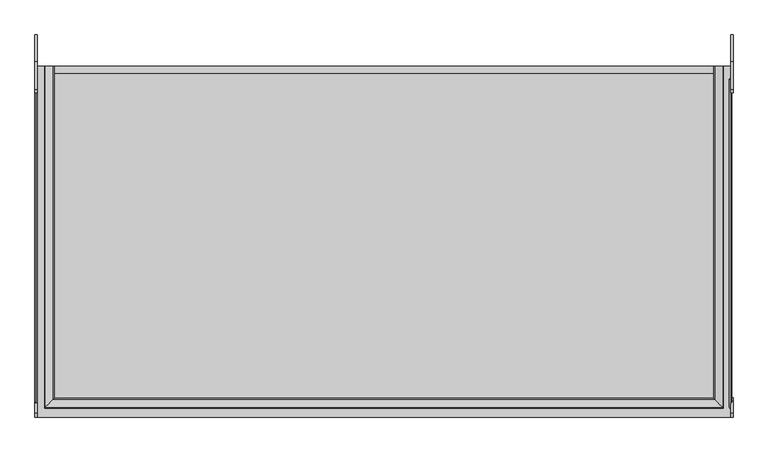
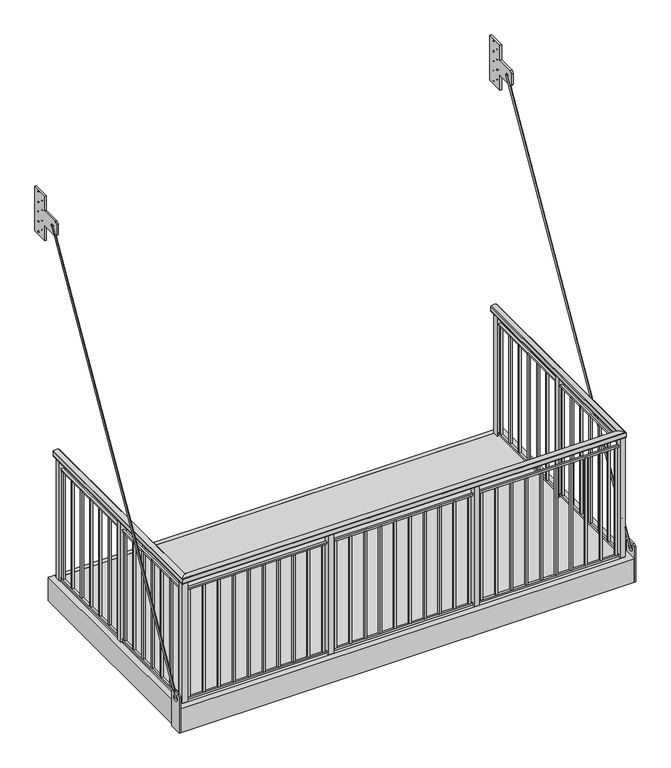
"""IFC4 building model written with IfcOpenShell, lengths in millimetres: proxy geometry, Specialty-Equipment_Endurable-Building-Products_Standard-Balcony : Vertical Pickets 6' x 12'."""

from ifc_helpers import new_model, si_unit, point, frame, frame_2d, origin, origin_2d, place, context, project, spatial, polyline, circle_curve, ellipse_curve, trimmed, segment, composite_curve, outline, extrude, source, transform, mapped, element, save
from ifc_brep_helpers import plane_surface, cylinder_surface, advanced_brep


def specialty_equipment_351d1645(model_context):
    return source(origin(), model_context, "Body", "SolidModel", [
        extrude(outline(polyline([(25.1129964, 3238.5), (164.8129964, 3238.5), (164.8129964, 2857.5), (25.1129964, 2857.5), (25.1129964, 2984.5), (-120.9370036, 2984.5), (-139.9870036, 3003.55), (-139.9870036, 3092.45), (-120.9370036, 3111.5), (25.1129964, 3111.5), (25.1129964, 3238.5)]), holes=[composite_curve([segment(trimmed(circle_curve(frame_2d((-69.85, 3048.0)), 6.35), [point((-63.5, 3048.0))], [point((-76.2, 3048.0))], True, "CARTESIAN"), True, "CONTINUOUS"), segment(trimmed(circle_curve(frame_2d((-69.85, 3048.0)), 6.35), [point((-76.2, 3048.0))], [point((-63.5, 3048.0))], True, "CARTESIAN"), True, "CONTINUOUS")], self_intersect=False), composite_curve([segment(trimmed(circle_curve(frame_2d((120.3629964, 3048.0)), 2.38125), [point((122.7442464, 3048.0))], [point((117.9817464, 3048.0))], True, "CARTESIAN"), True, "CONTINUOUS"), segment(trimmed(circle_curve(frame_2d((120.3629964, 3048.0)), 2.38125), [point((117.9817464, 3048.0))], [point((122.7442464, 3048.0))], True, "CARTESIAN"), True, "CONTINUOUS")], self_intersect=False), composite_curve([segment(trimmed(circle_curve(frame_2d((120.3629964, 3219.45)), 2.38125), [point((122.7442464, 3219.45))], [point((117.9817464, 3219.45))], True, "CARTESIAN"), True, "CONTINUOUS"), segment(trimmed(circle_curve(frame_2d((120.3629964, 3219.45)), 2.38125), [point((117.9817464, 3219.45))], [point((122.7442464, 3219.45))], True, "CARTESIAN"), True, "CONTINUOUS")], self_intersect=False), composite_curve([segment(trimmed(circle_curve(frame_2d((120.3629964, 2876.55)), 2.38125), [point((122.7442464, 2876.55))], [point((117.9817464, 2876.55))], True, "CARTESIAN"), True, "CONTINUOUS"), segment(trimmed(circle_curve(frame_2d((120.3629964, 2876.55)), 2.38125), [point((117.9817464, 2876.55))], [point((122.7442464, 2876.55))], True, "CARTESIAN"), True, "CONTINUOUS")], self_intersect=False), composite_curve([segment(trimmed(circle_curve(frame_2d((120.3629964, 2965.45)), 2.38125), [point((122.7442464, 2965.45))], [point((117.9817464, 2965.45))], True, "CARTESIAN"), True, "CONTINUOUS"), segment(trimmed(circle_curve(frame_2d((120.3629964, 2965.45)), 2.38125), [point((117.9817464, 2965.45))], [point((122.7442464, 2965.45))], True, "CARTESIAN"), True, "CONTINUOUS")], self_intersect=False), composite_curve([segment(trimmed(circle_curve(frame_2d((120.3629964, 3130.55)), 2.38125), [point((122.7442464, 3130.55))], [point((117.9817464, 3130.55))], True, "CARTESIAN"), True, "CONTINUOUS"), segment(trimmed(circle_curve(frame_2d((120.3629964, 3130.55)), 2.38125), [point((117.9817464, 3130.55))], [point((122.7442464, 3130.55))], True, "CARTESIAN"), True, "CONTINUOUS")], self_intersect=False), composite_curve([segment(trimmed(circle_curve(frame_2d((69.5629964, 3092.45)), 2.38125), [point((71.9442464, 3092.45))], [point((67.1817464, 3092.45))], True, "CARTESIAN"), True, "CONTINUOUS"), segment(trimmed(circle_curve(frame_2d((69.5629964, 3092.45)), 2.38125), [point((67.1817464, 3092.45))], [point((71.9442464, 3092.45))], True, "CARTESIAN"), True, "CONTINUOUS")], self_intersect=False), composite_curve([segment(trimmed(circle_curve(frame_2d((69.5629964, 3175.0)), 2.38125), [point((71.9442464, 3175.0))], [point((67.1817464, 3175.0))], True, "CARTESIAN"), True, "CONTINUOUS"), segment(trimmed(circle_curve(frame_2d((69.5629964, 3175.0)), 2.38125), [point((67.1817464, 3175.0))], [point((71.9442464, 3175.0))], True, "CARTESIAN"), True, "CONTINUOUS")], self_intersect=False), composite_curve([segment(trimmed(circle_curve(frame_2d((69.5629964, 3003.55)), 2.38125), [point((71.9442464, 3003.55))], [point((67.1817464, 3003.55))], True, "CARTESIAN"), True, "CONTINUOUS"), segment(trimmed(circle_curve(frame_2d((69.5629964, 3003.55)), 2.38125), [point((67.1817464, 3003.55))], [point((71.9442464, 3003.55))], True, "CARTESIAN"), True, "CONTINUOUS")], self_intersect=False), composite_curve([segment(trimmed(circle_curve(frame_2d((69.5629964, 2921.0)), 2.38125), [point((71.9442464, 2921.0))], [point((67.1817464, 2921.0))], True, "CARTESIAN"), True, "CONTINUOUS"), segment(trimmed(circle_curve(frame_2d((69.5629964, 2921.0)), 2.38125), [point((67.1817464, 2921.0))], [point((71.9442464, 2921.0))], True, "CARTESIAN"), True, "CONTINUOUS")], self_intersect=False)]), frame((-1841.5, 0.0, 0.0), z_axis=(1.0, 0.0, 0.0), x_axis=(0.0, 1.0, 0.0)), (0.0, 0.0, 1.0), 12.7),
        extrude(outline(polyline([(25.1129964, 3238.5), (164.8129964, 3238.5), (164.8129964, 2857.5), (25.1129964, 2857.5), (25.1129964, 2984.5), (-120.9370036, 2984.5), (-139.9870036, 3003.55), (-139.9870036, 3092.45), (-120.9370036, 3111.5), (25.1129964, 3111.5), (25.1129964, 3238.5)]), holes=[composite_curve([segment(trimmed(circle_curve(frame_2d((-69.85, 3048.0)), 6.35), [point((-63.5, 3048.0))], [point((-76.2, 3048.0))], True, "CARTESIAN"), True, "CONTINUOUS"), segment(trimmed(circle_curve(frame_2d((-69.85, 3048.0)), 6.35), [point((-76.2, 3048.0))], [point((-63.5, 3048.0))], True, "CARTESIAN"), True, "CONTINUOUS")], self_intersect=False), composite_curve([segment(trimmed(circle_curve(frame_2d((120.3629964, 3048.0)), 2.38125), [point((122.7442464, 3048.0))], [point((117.9817464, 3048.0))], True, "CARTESIAN"), True, "CONTINUOUS"), segment(trimmed(circle_curve(frame_2d((120.3629964, 3048.0)), 2.38125), [point((117.9817464, 3048.0))], [point((122.7442464, 3048.0))], True, "CARTESIAN"), True, "CONTINUOUS")], self_intersect=False), composite_curve([segment(trimmed(circle_curve(frame_2d((120.3629964, 3219.45)), 2.38125), [point((122.7442464, 3219.45))], [point((117.9817464, 3219.45))], True, "CARTESIAN"), True, "CONTINUOUS"), segment(trimmed(circle_curve(frame_2d((120.3629964, 3219.45)), 2.38125), [point((117.9817464, 3219.45))], [point((122.7442464, 3219.45))], True, "CARTESIAN"), True, "CONTINUOUS")], self_intersect=False), composite_curve([segment(trimmed(circle_curve(frame_2d((120.3629964, 2876.55)), 2.38125), [point((122.7442464, 2876.55))], [point((117.9817464, 2876.55))], True, "CARTESIAN"), True, "CONTINUOUS"), segment(trimmed(circle_curve(frame_2d((120.3629964, 2876.55)), 2.38125), [point((117.9817464, 2876.55))], [point((122.7442464, 2876.55))], True, "CARTESIAN"), True, "CONTINUOUS")], self_intersect=False), composite_curve([segment(trimmed(circle_curve(frame_2d((120.3629964, 2965.45)), 2.38125), [point((122.7442464, 2965.45))], [point((117.9817464, 2965.45))], True, "CARTESIAN"), True, "CONTINUOUS"), segment(trimmed(circle_curve(frame_2d((120.3629964, 2965.45)), 2.38125), [point((117.9817464, 2965.45))], [point((122.7442464, 2965.45))], True, "CARTESIAN"), True, "CONTINUOUS")], self_intersect=False), composite_curve([segment(trimmed(circle_curve(frame_2d((120.3629964, 3130.55)), 2.38125), [point((122.7442464, 3130.55))], [point((117.9817464, 3130.55))], True, "CARTESIAN"), True, "CONTINUOUS"), segment(trimmed(circle_curve(frame_2d((120.3629964, 3130.55)), 2.38125), [point((117.9817464, 3130.55))], [point((122.7442464, 3130.55))], True, "CARTESIAN"), True, "CONTINUOUS")], self_intersect=False), composite_curve([segment(trimmed(circle_curve(frame_2d((69.5629964, 3092.45)), 2.38125), [point((71.9442464, 3092.45))], [point((67.1817464, 3092.45))], True, "CARTESIAN"), True, "CONTINUOUS"), segment(trimmed(circle_curve(frame_2d((69.5629964, 3092.45)), 2.38125), [point((67.1817464, 3092.45))], [point((71.9442464, 3092.45))], True, "CARTESIAN"), True, "CONTINUOUS")], self_intersect=False), composite_curve([segment(trimmed(circle_curve(frame_2d((69.5629964, 3175.0)), 2.38125), [point((71.9442464, 3175.0))], [point((67.1817464, 3175.0))], True, "CARTESIAN"), True, "CONTINUOUS"), segment(trimmed(circle_curve(frame_2d((69.5629964, 3175.0)), 2.38125), [point((67.1817464, 3175.0))], [point((71.9442464, 3175.0))], True, "CARTESIAN"), True, "CONTINUOUS")], self_intersect=False), composite_curve([segment(trimmed(circle_curve(frame_2d((69.5629964, 3003.55)), 2.38125), [point((71.9442464, 3003.55))], [point((67.1817464, 3003.55))], True, "CARTESIAN"), True, "CONTINUOUS"), segment(trimmed(circle_curve(frame_2d((69.5629964, 3003.55)), 2.38125), [point((67.1817464, 3003.55))], [point((71.9442464, 3003.55))], True, "CARTESIAN"), True, "CONTINUOUS")], self_intersect=False), composite_curve([segment(trimmed(circle_curve(frame_2d((69.5629964, 2921.0)), 2.38125), [point((71.9442464, 2921.0))], [point((67.1817464, 2921.0))], True, "CARTESIAN"), True, "CONTINUOUS"), segment(trimmed(circle_curve(frame_2d((69.5629964, 2921.0)), 2.38125), [point((67.1817464, 2921.0))], [point((71.9442464, 2921.0))], True, "CARTESIAN"), True, "CONTINUOUS")], self_intersect=False)]), frame((1828.8, 0.0, 0.0), z_axis=(1.0, 0.0, 0.0), x_axis=(0.0, 1.0, 0.0)), (0.0, 0.0, 1.0), 12.7),
        extrude(outline(polyline([(-1850.23125, -203.2), (-1850.23125, 96.7382813), (-1831.18125, 115.7882813), (-1767.68125, 115.7882813), (-1748.63125, 96.7382813), (-1748.63125, -203.2), (-1850.23125, -203.2)]), holes=[composite_curve([segment(trimmed(circle_curve(frame_2d((-1799.43125, 64.9882813)), 25.4), [point((-1824.83125, 64.9882813))], [point((-1774.03125, 64.9882813))], True, "CARTESIAN"), True, "CONTINUOUS"), segment(trimmed(circle_curve(frame_2d((-1799.43125, 64.9882813)), 25.4), [point((-1774.03125, 64.9882813))], [point((-1824.83125, 64.9882813))], True, "CARTESIAN"), True, "CONTINUOUS")], self_intersect=False)]), frame((-1841.5, 0.0, 0.0), z_axis=(1.0, 0.0, 0.0), x_axis=(0.0, 1.0, 0.0)), (0.0, 0.0, 1.0), 12.7),
        extrude(outline(polyline([(-1850.23125, -203.2), (-1850.23125, 96.7382812), (-1831.18125, 115.7882812), (-1767.68125, 115.7882812), (-1748.63125, 96.7382812), (-1748.63125, -203.2), (-1850.23125, -203.2)]), holes=[composite_curve([segment(trimmed(circle_curve(frame_2d((-1799.43125, 64.9882812)), 25.4), [point((-1824.83125, 64.9882812))], [point((-1774.03125, 64.9882812))], True, "CARTESIAN"), True, "CONTINUOUS"), segment(trimmed(circle_curve(frame_2d((-1799.43125, 64.9882812)), 25.4), [point((-1774.03125, 64.9882812))], [point((-1824.83125, 64.9882812))], True, "CARTESIAN"), True, "CONTINUOUS")], self_intersect=False)]), frame((1828.8, 0.0, 0.0), z_axis=(1.0, 0.0, 0.0), x_axis=(0.0, 1.0, 0.0)), (0.0, 0.0, 1.0), 12.7),
        extrude(outline(polyline([(1202.8714286, -38.1), (1202.8714286, -1799.43125), (1164.7714286, -1799.43125), (1164.7714286, -38.1), (1202.8714286, -38.1)])), frame((0.0, 0.0, -203.2), z_axis=(0.0, 0.0, 1.0), x_axis=(1.0, 0.0, 0.0)), (0.0, 0.0, 1.0), 177.8),
        extrude(outline(polyline([(729.3428571, -38.1), (729.3428571, -1799.43125), (691.2428571, -1799.43125), (691.2428571, -38.1), (729.3428571, -38.1)])), frame((0.0, 0.0, -203.2), z_axis=(0.0, 0.0, 1.0), x_axis=(1.0, 0.0, 0.0)), (0.0, 0.0, 1.0), 177.8),
        extrude(outline(polyline([(255.8142857, -38.1), (255.8142857, -1799.43125), (217.7142857, -1799.43125), (217.7142857, -38.1), (255.8142857, -38.1)])), frame((0.0, 0.0, -203.2), z_axis=(0.0, 0.0, 1.0), x_axis=(1.0, 0.0, 0.0)), (0.0, 0.0, 1.0), 177.8),
        extrude(outline(polyline([(427.9488426, -1770.0625), (427.9488426, -1785.9375), (412.0738426, -1785.9375), (412.0738426, -1770.0625), (427.9488426, -1770.0625)])), frame((0.0, 0.0, 25.4), z_axis=(0.0, 0.0, 1.0), x_axis=(1.0, 0.0, 0.0)), (0.0, 0.0, 1.0), 914.4),
        extrude(outline(polyline([(307.9456019, -1770.0625), (307.9456019, -1785.9375), (292.0706019, -1785.9375), (292.0706019, -1770.0625), (307.9456019, -1770.0625)])), frame((0.0, 0.0, 25.4), z_axis=(0.0, 0.0, 1.0), x_axis=(1.0, 0.0, 0.0)), (0.0, 0.0, 1.0), 914.4),
        extrude(outline(polyline([(187.9423611, -1770.0625), (187.9423611, -1785.9375), (172.0673611, -1785.9375), (172.0673611, -1770.0625), (187.9423611, -1770.0625)])), frame((0.0, 0.0, 25.4), z_axis=(0.0, 0.0, 1.0), x_axis=(1.0, 0.0, 0.0)), (0.0, 0.0, 1.0), 914.4),
        extrude(outline(polyline([(67.9391204, -1770.0625), (67.9391204, -1785.9375), (52.0641204, -1785.9375), (52.0641204, -1770.0625), (67.9391204, -1770.0625)])), frame((0.0, 0.0, 25.4), z_axis=(0.0, 0.0, 1.0), x_axis=(1.0, 0.0, 0.0)), (0.0, 0.0, 1.0), 914.4),
        extrude(outline(polyline([(-52.0641204, -1770.0625), (-52.0641204, -1785.9375), (-67.9391204, -1785.9375), (-67.9391204, -1770.0625), (-52.0641204, -1770.0625)])), frame((0.0, 0.0, 25.4), z_axis=(0.0, 0.0, 1.0), x_axis=(1.0, 0.0, 0.0)), (0.0, 0.0, 1.0), 914.4),
        extrude(outline(polyline([(-172.0673611, -1770.0625), (-172.0673611, -1785.9375), (-187.9423611, -1785.9375), (-187.9423611, -1770.0625), (-172.0673611, -1770.0625)])), frame((0.0, 0.0, 25.4), z_axis=(0.0, 0.0, 1.0), x_axis=(1.0, 0.0, 0.0)), (0.0, 0.0, 1.0), 914.4),
        extrude(outline(polyline([(-292.0706019, -1770.0625), (-292.0706019, -1785.9375), (-307.9456019, -1785.9375), (-307.9456019, -1770.0625), (-292.0706019, -1770.0625)])), frame((0.0, 0.0, 25.4), z_axis=(0.0, 0.0, 1.0), x_axis=(1.0, 0.0, 0.0)), (0.0, 0.0, 1.0), 914.4),
        extrude(outline(polyline([(-412.0738426, -1770.0625), (-412.0738426, -1785.9375), (-427.9488426, -1785.9375), (-427.9488426, -1770.0625), (-412.0738426, -1770.0625)])), frame((0.0, 0.0, 25.4), z_axis=(0.0, 0.0, 1.0), x_axis=(1.0, 0.0, 0.0)), (0.0, 0.0, 1.0), 914.4),
        extrude(outline(polyline([(-1757.3625, -1083.1380208), (-1757.3625, -1099.0130208), (-1773.2375, -1099.0130208), (-1773.2375, -1083.1380208), (-1757.3625, -1083.1380208)])), frame((0.0, 0.0, 25.4), z_axis=(0.0, 0.0, 1.0), x_axis=(1.0, 0.0, 0.0)), (0.0, 0.0, 1.0), 914.4),
        extrude(outline(polyline([(-1757.3625, -1211.7916667), (-1757.3625, -1227.6666667), (-1773.2375, -1227.6666667), (-1773.2375, -1211.7916667), (-1757.3625, -1211.7916667)])), frame((0.0, 0.0, 25.4), z_axis=(0.0, 0.0, 1.0), x_axis=(1.0, 0.0, 0.0)), (0.0, 0.0, 1.0), 914.4),
        extrude(outline(polyline([(-1757.3625, -1340.4453125), (-1757.3625, -1356.3203125), (-1773.2375, -1356.3203125), (-1773.2375, -1340.4453125), (-1757.3625, -1340.4453125)])), frame((0.0, 0.0, 25.4), z_axis=(0.0, 0.0, 1.0), x_axis=(1.0, 0.0, 0.0)), (0.0, 0.0, 1.0), 914.4),
        extrude(outline(polyline([(-1757.3625, -1469.0989583), (-1757.3625, -1484.9739583), (-1773.2375, -1484.9739583), (-1773.2375, -1469.0989583), (-1757.3625, -1469.0989583)])), frame((0.0, 0.0, 25.4), z_axis=(0.0, 0.0, 1.0), x_axis=(1.0, 0.0, 0.0)), (0.0, 0.0, 1.0), 914.4),
        extrude(outline(polyline([(-1757.3625, -1597.7526042), (-1757.3625, -1613.6276042), (-1773.2375, -1613.6276042), (-1773.2375, -1597.7526042), (-1757.3625, -1597.7526042)])), frame((0.0, 0.0, 25.4), z_axis=(0.0, 0.0, 1.0), x_axis=(1.0, 0.0, 0.0)), (0.0, 0.0, 1.0), 914.4),
        extrude(outline(polyline([(1773.2375, -1083.1380208), (1773.2375, -1099.0130208), (1757.3625, -1099.0130208), (1757.3625, -1083.1380208), (1773.2375, -1083.1380208)])), frame((0.0, 0.0, 25.4), z_axis=(0.0, 0.0, 1.0), x_axis=(1.0, 0.0, 0.0)), (0.0, 0.0, 1.0), 914.4),
        extrude(outline(polyline([(1773.2375, -1211.7916667), (1773.2375, -1227.6666667), (1757.3625, -1227.6666667), (1757.3625, -1211.7916667), (1773.2375, -1211.7916667)])), frame((0.0, 0.0, 25.4), z_axis=(0.0, 0.0, 1.0), x_axis=(1.0, 0.0, 0.0)), (0.0, 0.0, 1.0), 914.4),
        extrude(outline(polyline([(1773.2375, -1340.4453125), (1773.2375, -1356.3203125), (1757.3625, -1356.3203125), (1757.3625, -1340.4453125), (1773.2375, -1340.4453125)])), frame((0.0, 0.0, 25.4), z_axis=(0.0, 0.0, 1.0), x_axis=(1.0, 0.0, 0.0)), (0.0, 0.0, 1.0), 914.4),
        extrude(outline(polyline([(1773.2375, -1469.0989583), (1773.2375, -1484.9739583), (1757.3625, -1484.9739583), (1757.3625, -1469.0989583), (1773.2375, -1469.0989583)])), frame((0.0, 0.0, 25.4), z_axis=(0.0, 0.0, 1.0), x_axis=(1.0, 0.0, 0.0)), (0.0, 0.0, 1.0), 914.4),
        extrude(outline(polyline([(1773.2375, -1597.7526042), (1773.2375, -1613.6276042), (1757.3625, -1613.6276042), (1757.3625, -1597.7526042), (1773.2375, -1597.7526042)])), frame((0.0, 0.0, 25.4), z_axis=(0.0, 0.0, 1.0), x_axis=(1.0, 0.0, 0.0)), (0.0, 0.0, 1.0), 914.4),
        extrude(outline(polyline([(1773.2375, -738.5182292), (1773.2375, -754.3932292), (1757.3625, -754.3932292), (1757.3625, -738.5182292), (1773.2375, -738.5182292)])), frame((0.0, 0.0, 25.4), z_axis=(0.0, 0.0, 1.0), x_axis=(1.0, 0.0, 0.0)), (0.0, 0.0, 1.0), 914.4),
        extrude(outline(polyline([(1773.2375, -609.8645833), (1773.2375, -625.7395833), (1757.3625, -625.7395833), (1757.3625, -609.8645833), (1773.2375, -609.8645833)])), frame((0.0, 0.0, 25.4), z_axis=(0.0, 0.0, 1.0), x_axis=(1.0, 0.0, 0.0)), (0.0, 0.0, 1.0), 914.4),
        extrude(outline(polyline([(1773.2375, -481.2109375), (1773.2375, -497.0859375), (1757.3625, -497.0859375), (1757.3625, -481.2109375), (1773.2375, -481.2109375)])), frame((0.0, 0.0, 25.4), z_axis=(0.0, 0.0, 1.0), x_axis=(1.0, 0.0, 0.0)), (0.0, 0.0, 1.0), 914.4),
        extrude(outline(polyline([(1773.2375, -352.5572917), (1773.2375, -368.4322917), (1757.3625, -368.4322917), (1757.3625, -352.5572917), (1773.2375, -352.5572917)])), frame((0.0, 0.0, 25.4), z_axis=(0.0, 0.0, 1.0), x_axis=(1.0, 0.0, 0.0)), (0.0, 0.0, 1.0), 914.4),
        extrude(outline(polyline([(1773.2375, -223.9036458), (1773.2375, -239.7786458), (1757.3625, -239.7786458), (1757.3625, -223.9036458), (1773.2375, -223.9036458)])), frame((0.0, 0.0, 25.4), z_axis=(0.0, 0.0, 1.0), x_axis=(1.0, 0.0, 0.0)), (0.0, 0.0, 1.0), 914.4),
        extrude(outline(polyline([(-1773.2375, -738.5182292), (-1757.3625, -738.5182292), (-1757.3625, -754.3932292), (-1773.2375, -754.3932292), (-1773.2375, -738.5182292)])), frame((0.0, 0.0, 25.4), z_axis=(0.0, 0.0, 1.0), x_axis=(1.0, 0.0, 0.0)), (0.0, 0.0, 1.0), 914.4),
        extrude(outline(polyline([(-1773.2375, -609.8645833), (-1757.3625, -609.8645833), (-1757.3625, -625.7395833), (-1773.2375, -625.7395833), (-1773.2375, -609.8645833)])), frame((0.0, 0.0, 25.4), z_axis=(0.0, 0.0, 1.0), x_axis=(1.0, 0.0, 0.0)), (0.0, 0.0, 1.0), 914.4),
        extrude(outline(polyline([(-1773.2375, -481.2109375), (-1757.3625, -481.2109375), (-1757.3625, -497.0859375), (-1773.2375, -497.0859375), (-1773.2375, -481.2109375)])), frame((0.0, 0.0, 25.4), z_axis=(0.0, 0.0, 1.0), x_axis=(1.0, 0.0, 0.0)), (0.0, 0.0, 1.0), 914.4),
        extrude(outline(polyline([(-1773.2375, -352.5572917), (-1757.3625, -352.5572917), (-1757.3625, -368.4322917), (-1773.2375, -368.4322917), (-1773.2375, -352.5572917)])), frame((0.0, 0.0, 25.4), z_axis=(0.0, 0.0, 1.0), x_axis=(1.0, 0.0, 0.0)), (0.0, 0.0, 1.0), 914.4),
        extrude(outline(polyline([(-1773.2375, -223.9036458), (-1757.3625, -223.9036458), (-1757.3625, -239.7786458), (-1773.2375, -239.7786458), (-1773.2375, -223.9036458)])), frame((0.0, 0.0, 25.4), z_axis=(0.0, 0.0, 1.0), x_axis=(1.0, 0.0, 0.0)), (0.0, 0.0, 1.0), 914.4),
        extrude(outline(polyline([(1609.0488426, -1770.0625), (1609.0488426, -1785.9375), (1593.1738426, -1785.9375), (1593.1738426, -1770.0625), (1609.0488426, -1770.0625)])), frame((0.0, 0.0, 25.4), z_axis=(0.0, 0.0, 1.0), x_axis=(1.0, 0.0, 0.0)), (0.0, 0.0, 1.0), 914.4),
        extrude(outline(polyline([(1488.5164352, -1770.0625), (1488.5164352, -1785.9375), (1472.6414352, -1785.9375), (1472.6414352, -1770.0625), (1488.5164352, -1770.0625)])), frame((0.0, 0.0, 25.4), z_axis=(0.0, 0.0, 1.0), x_axis=(1.0, 0.0, 0.0)), (0.0, 0.0, 1.0), 914.4),
        extrude(outline(polyline([(1367.9840278, -1770.0625), (1367.9840278, -1785.9375), (1352.1090278, -1785.9375), (1352.1090278, -1770.0625), (1367.9840278, -1770.0625)])), frame((0.0, 0.0, 25.4), z_axis=(0.0, 0.0, 1.0), x_axis=(1.0, 0.0, 0.0)), (0.0, 0.0, 1.0), 914.4),
        extrude(outline(polyline([(1247.4516204, -1770.0625), (1247.4516204, -1785.9375), (1231.5766204, -1785.9375), (1231.5766204, -1770.0625), (1247.4516204, -1770.0625)])), frame((0.0, 0.0, 25.4), z_axis=(0.0, 0.0, 1.0), x_axis=(1.0, 0.0, 0.0)), (0.0, 0.0, 1.0), 914.4),
        extrude(outline(polyline([(1126.919213, -1770.0625), (1126.919213, -1785.9375), (1111.044213, -1785.9375), (1111.044213, -1770.0625), (1126.919213, -1770.0625)])), frame((0.0, 0.0, 25.4), z_axis=(0.0, 0.0, 1.0), x_axis=(1.0, 0.0, 0.0)), (0.0, 0.0, 1.0), 914.4),
        extrude(outline(polyline([(1006.3868056, -1770.0625), (1006.3868056, -1785.9375), (990.5118056, -1785.9375), (990.5118056, -1770.0625), (1006.3868056, -1770.0625)])), frame((0.0, 0.0, 25.4), z_axis=(0.0, 0.0, 1.0), x_axis=(1.0, 0.0, 0.0)), (0.0, 0.0, 1.0), 914.4),
        extrude(outline(polyline([(885.8543981, -1770.0625), (885.8543981, -1785.9375), (869.9793981, -1785.9375), (869.9793981, -1770.0625), (885.8543981, -1770.0625)])), frame((0.0, 0.0, 25.4), z_axis=(0.0, 0.0, 1.0), x_axis=(1.0, 0.0, 0.0)), (0.0, 0.0, 1.0), 914.4),
        extrude(outline(polyline([(765.3219907, -1770.0625), (765.3219907, -1785.9375), (749.4469907, -1785.9375), (749.4469907, -1770.0625), (765.3219907, -1770.0625)])), frame((0.0, 0.0, 25.4), z_axis=(0.0, 0.0, 1.0), x_axis=(1.0, 0.0, 0.0)), (0.0, 0.0, 1.0), 914.4),
        extrude(outline(polyline([(-749.4469907, -1770.0625), (-749.4469907, -1785.9375), (-765.3219907, -1785.9375), (-765.3219907, -1770.0625), (-749.4469907, -1770.0625)])), frame((0.0, 0.0, 25.4), z_axis=(0.0, 0.0, 1.0), x_axis=(1.0, 0.0, 0.0)), (0.0, 0.0, 1.0), 914.4),
        extrude(outline(polyline([(-869.9793981, -1770.0625), (-869.9793981, -1785.9375), (-885.8543981, -1785.9375), (-885.8543981, -1770.0625), (-869.9793981, -1770.0625)])), frame((0.0, 0.0, 25.4), z_axis=(0.0, 0.0, 1.0), x_axis=(1.0, 0.0, 0.0)), (0.0, 0.0, 1.0), 914.4),
        extrude(outline(polyline([(-990.5118056, -1770.0625), (-990.5118056, -1785.9375), (-1006.3868056, -1785.9375), (-1006.3868056, -1770.0625), (-990.5118056, -1770.0625)])), frame((0.0, 0.0, 25.4), z_axis=(0.0, 0.0, 1.0), x_axis=(1.0, 0.0, 0.0)), (0.0, 0.0, 1.0), 914.4),
        extrude(outline(polyline([(-1111.044213, -1770.0625), (-1111.044213, -1785.9375), (-1126.919213, -1785.9375), (-1126.919213, -1770.0625), (-1111.044213, -1770.0625)])), frame((0.0, 0.0, 25.4), z_axis=(0.0, 0.0, 1.0), x_axis=(1.0, 0.0, 0.0)), (0.0, 0.0, 1.0), 914.4),
        extrude(outline(polyline([(-1231.5766204, -1770.0625), (-1231.5766204, -1785.9375), (-1247.4516204, -1785.9375), (-1247.4516204, -1770.0625), (-1231.5766204, -1770.0625)])), frame((0.0, 0.0, 25.4), z_axis=(0.0, 0.0, 1.0), x_axis=(1.0, 0.0, 0.0)), (0.0, 0.0, 1.0), 914.4),
        extrude(outline(polyline([(-1352.1090278, -1770.0625), (-1352.1090278, -1785.9375), (-1367.9840278, -1785.9375), (-1367.9840278, -1770.0625), (-1352.1090278, -1770.0625)])), frame((0.0, 0.0, 25.4), z_axis=(0.0, 0.0, 1.0), x_axis=(1.0, 0.0, 0.0)), (0.0, 0.0, 1.0), 914.4),
        extrude(outline(polyline([(-1472.6414352, -1770.0625), (-1472.6414352, -1785.9375), (-1488.5164352, -1785.9375), (-1488.5164352, -1770.0625), (-1472.6414352, -1770.0625)])), frame((0.0, 0.0, 25.4), z_axis=(0.0, 0.0, 1.0), x_axis=(1.0, 0.0, 0.0)), (0.0, 0.0, 1.0), 914.4),
        extrude(outline(polyline([(-1593.1738426, -1770.0625), (-1593.1738426, -1785.9375), (-1609.0488426, -1785.9375), (-1609.0488426, -1770.0625), (-1593.1738426, -1770.0625)])), frame((0.0, 0.0, 25.4), z_axis=(0.0, 0.0, 1.0), x_axis=(1.0, 0.0, 0.0)), (0.0, 0.0, 1.0), 914.4),
        extrude(outline(polyline([(-217.7142857, -38.1), (-217.7142857, -1799.43125), (-255.8142857, -1799.43125), (-255.8142857, -38.1), (-217.7142857, -38.1)])), frame((0.0, 0.0, -203.2), z_axis=(0.0, 0.0, 1.0), x_axis=(1.0, 0.0, 0.0)), (0.0, 0.0, 1.0), 177.8),
        extrude(outline(polyline([(-691.2428571, -38.1), (-691.2428571, -1799.43125), (-729.3428571, -1799.43125), (-729.3428571, -38.1), (-691.2428571, -38.1)])), frame((0.0, 0.0, -203.2), z_axis=(0.0, 0.0, 1.0), x_axis=(1.0, 0.0, 0.0)), (0.0, 0.0, 1.0), 177.8),
        extrude(outline(polyline([(-1164.7714286, -38.1), (-1164.7714286, -1799.43125), (-1202.8714286, -1799.43125), (-1202.8714286, -38.1), (-1164.7714286, -38.1)])), frame((0.0, 0.0, -203.2), z_axis=(0.0, 0.0, 1.0), x_axis=(1.0, 0.0, 0.0)), (0.0, 0.0, 1.0), 177.8),
        extrude(outline(polyline([(1676.4, -38.1), (1676.4, -1799.43125), (1638.3, -1799.43125), (1638.3, -38.1), (1676.4, -38.1)])), frame((0.0, 0.0, -203.2), z_axis=(0.0, 0.0, 1.0), x_axis=(1.0, 0.0, 0.0)), (0.0, 0.0, 1.0), 177.8),
        extrude(outline(polyline([(1773.2375, -80.9625), (1773.2375, -897.334375), (1757.3625, -897.334375), (1757.3625, -80.9625), (1773.2375, -80.9625)])), frame((0.0, 0.0, 9.525), z_axis=(0.0, 0.0, 1.0), x_axis=(1.0, 0.0, 0.0)), (0.0, 0.0, 1.0), 15.875),
        extrude(outline(polyline([(1773.2375, -940.196875), (1773.2375, -1756.56875), (1757.3625, -1756.56875), (1757.3625, -940.196875), (1773.2375, -940.196875)])), frame((0.0, 0.0, 9.525), z_axis=(0.0, 0.0, 1.0), x_axis=(1.0, 0.0, 0.0)), (0.0, 0.0, 1.0), 15.875),
        extrude(outline(polyline([(-1773.2375, -80.9625), (-1757.3625, -80.9625), (-1757.3625, -897.334375), (-1773.2375, -897.334375), (-1773.2375, -80.9625)])), frame((0.0, 0.0, 9.525), z_axis=(0.0, 0.0, 1.0), x_axis=(1.0, 0.0, 0.0)), (0.0, 0.0, 1.0), 15.875),
        extrude(outline(polyline([(-1773.2375, -940.196875), (-1757.3625, -940.196875), (-1757.3625, -1756.56875), (-1773.2375, -1756.56875), (-1773.2375, -940.196875)])), frame((0.0, 0.0, 9.525), z_axis=(0.0, 0.0, 1.0), x_axis=(1.0, 0.0, 0.0)), (0.0, 0.0, 1.0), 15.875),
        extrude(outline(polyline([(547.9520833, -1770.0625), (547.9520833, -1785.9375), (532.0770833, -1785.9375), (532.0770833, -1770.0625), (547.9520833, -1770.0625)])), frame((0.0, 0.0, 25.4), z_axis=(0.0, 0.0, 1.0), x_axis=(1.0, 0.0, 0.0)), (0.0, 0.0, 1.0), 914.4),
        extrude(outline(polyline([(-1757.3625, -954.484375), (-1757.3625, -970.359375), (-1773.2375, -970.359375), (-1773.2375, -954.484375), (-1757.3625, -954.484375)])), frame((0.0, 0.0, 25.4), z_axis=(0.0, 0.0, 1.0), x_axis=(1.0, 0.0, 0.0)), (0.0, 0.0, 1.0), 914.4),
        extrude(outline(polyline([(1773.2375, -954.484375), (1773.2375, -970.359375), (1757.3625, -970.359375), (1757.3625, -954.484375), (1773.2375, -954.484375)])), frame((0.0, 0.0, 25.4), z_axis=(0.0, 0.0, 1.0), x_axis=(1.0, 0.0, 0.0)), (0.0, 0.0, 1.0), 914.4),
        extrude(outline(polyline([(1773.2375, -867.171875), (1773.2375, -883.046875), (1757.3625, -883.046875), (1757.3625, -867.171875), (1773.2375, -867.171875)])), frame((0.0, 0.0, 25.4), z_axis=(0.0, 0.0, 1.0), x_axis=(1.0, 0.0, 0.0)), (0.0, 0.0, 1.0), 914.4),
        extrude(outline(polyline([(-1773.2375, -867.171875), (-1757.3625, -867.171875), (-1757.3625, -883.046875), (-1773.2375, -883.046875), (-1773.2375, -867.171875)])), frame((0.0, 0.0, 25.4), z_axis=(0.0, 0.0, 1.0), x_axis=(1.0, 0.0, 0.0)), (0.0, 0.0, 1.0), 914.4),
        extrude(outline(polyline([(-532.0770833, -1770.0625), (-532.0770833, -1785.9375), (-547.9520833, -1785.9375), (-547.9520833, -1770.0625), (-532.0770833, -1770.0625)])), frame((0.0, 0.0, 25.4), z_axis=(0.0, 0.0, 1.0), x_axis=(1.0, 0.0, 0.0)), (0.0, 0.0, 1.0), 914.4),
        extrude(outline(polyline([(-567.0020833, -1770.0625), (567.0020833, -1770.0625), (567.0020833, -1785.9375), (-567.0020833, -1785.9375), (-567.0020833, -1770.0625)])), frame((0.0, 0.0, 9.525), z_axis=(0.0, 0.0, 1.0), x_axis=(1.0, 0.0, 0.0)), (0.0, 0.0, 1.0), 15.875),
        extrude(outline(polyline([(-567.0020833, -1770.0625), (567.0020833, -1770.0625), (567.0020833, -1785.9375), (-567.0020833, -1785.9375), (-567.0020833, -1770.0625)])), frame((0.0, 0.0, 939.8), z_axis=(0.0, 0.0, 1.0), x_axis=(1.0, 0.0, 0.0)), (0.0, 0.0, 1.0), 15.875),
        extrude(outline(polyline([(-1773.2375, -95.25), (-1757.3625, -95.25), (-1757.3625, -111.125), (-1773.2375, -111.125), (-1773.2375, -95.25)])), frame((0.0, 0.0, 25.4), z_axis=(0.0, 0.0, 1.0), x_axis=(1.0, 0.0, 0.0)), (0.0, 0.0, 1.0), 914.4),
        extrude(outline(polyline([(-1773.2375, -80.9625), (-1757.3625, -80.9625), (-1757.3625, -897.334375), (-1773.2375, -897.334375), (-1773.2375, -80.9625)])), frame((0.0, 0.0, 939.8), z_axis=(0.0, 0.0, 1.0), x_axis=(1.0, 0.0, 0.0)), (0.0, 0.0, 1.0), 15.875),
        extrude(outline(polyline([(1773.2375, -80.9625), (1773.2375, -897.334375), (1757.3625, -897.334375), (1757.3625, -80.9625), (1773.2375, -80.9625)])), frame((0.0, 0.0, 939.8), z_axis=(0.0, 0.0, 1.0), x_axis=(1.0, 0.0, 0.0)), (0.0, 0.0, 1.0), 15.875),
        extrude(outline(polyline([(1773.2375, -95.25), (1773.2375, -111.125), (1757.3625, -111.125), (1757.3625, -95.25), (1773.2375, -95.25)])), frame((0.0, 0.0, 25.4), z_axis=(0.0, 0.0, 1.0), x_axis=(1.0, 0.0, 0.0)), (0.0, 0.0, 1.0), 914.4),
        extrude(outline(polyline([(-567.0020833, -1756.56875), (-567.0020833, -1799.43125), (-609.8645833, -1799.43125), (-609.8645833, -1756.56875), (-567.0020833, -1756.56875)])), frame((0.0, 0.0, -203.2), z_axis=(0.0, 0.0, 1.0), x_axis=(1.0, 0.0, 0.0)), (0.0, 0.0, 1.0), 1219.2),
        extrude(outline(polyline([(609.8645833, -1756.56875), (609.8645833, -1799.43125), (567.0020833, -1799.43125), (567.0020833, -1756.56875), (609.8645833, -1756.56875)])), frame((0.0, 0.0, -203.2), z_axis=(0.0, 0.0, 1.0), x_axis=(1.0, 0.0, 0.0)), (0.0, 0.0, 1.0), 1219.2),
        extrude(outline(polyline([(1743.86875, -38.1), (1786.73125, -38.1), (1786.73125, -80.9625), (1743.86875, -80.9625), (1743.86875, -38.1)])), frame((0.0, 0.0, -203.2), z_axis=(0.0, 0.0, 1.0), x_axis=(1.0, 0.0, 0.0)), (0.0, 0.0, 1.0), 1219.2),
        extrude(outline(polyline([(-1743.86875, -38.1), (-1743.86875, -80.9625), (-1786.73125, -80.9625), (-1786.73125, -38.1), (-1743.86875, -38.1)])), frame((0.0, 0.0, -203.2), z_axis=(0.0, 0.0, 1.0), x_axis=(1.0, 0.0, 0.0)), (0.0, 0.0, 1.0), 1219.2),
        extrude(outline(polyline([(1773.2375, -940.196875), (1773.2375, -1756.56875), (1757.3625, -1756.56875), (1757.3625, -940.196875), (1773.2375, -940.196875)])), frame((0.0, 0.0, 939.8), z_axis=(0.0, 0.0, 1.0), x_axis=(1.0, 0.0, 0.0)), (0.0, 0.0, 1.0), 15.875),
        extrude(outline(polyline([(-1773.2375, -940.196875), (-1757.3625, -940.196875), (-1757.3625, -1756.56875), (-1773.2375, -1756.56875), (-1773.2375, -940.196875)])), frame((0.0, 0.0, 939.8), z_axis=(0.0, 0.0, 1.0), x_axis=(1.0, 0.0, 0.0)), (0.0, 0.0, 1.0), 15.875),
        extrude(outline(polyline([(1786.73125, -897.334375), (1786.73125, -940.196875), (1743.86875, -940.196875), (1743.86875, -897.334375), (1786.73125, -897.334375)])), frame((0.0, 0.0, -203.2), z_axis=(0.0, 0.0, 1.0), x_axis=(1.0, 0.0, 0.0)), (0.0, 0.0, 1.0), 1219.2),
        extrude(outline(polyline([(-1743.86875, -897.334375), (-1743.86875, -940.196875), (-1786.73125, -940.196875), (-1786.73125, -897.334375), (-1743.86875, -897.334375)])), frame((0.0, 0.0, -203.2), z_axis=(0.0, 0.0, 1.0), x_axis=(1.0, 0.0, 0.0)), (0.0, 0.0, 1.0), 1219.2),
        extrude(outline(polyline([(1778.0, 0.0), (1778.0, -38.1), (-1778.0, -38.1), (-1778.0, 0.0), (1778.0, 0.0)])), frame((0.0, 0.0, -203.2), z_axis=(0.0, 0.0, 1.0), x_axis=(1.0, 0.0, 0.0)), (0.0, 0.0, 1.0), 203.2),
        extrude(outline(polyline([(-1638.3, -38.1), (-1638.3, -1799.43125), (-1676.4, -1799.43125), (-1676.4, -38.1), (-1638.3, -38.1)])), frame((0.0, 0.0, -203.2), z_axis=(0.0, 0.0, 1.0), x_axis=(1.0, 0.0, 0.0)), (0.0, 0.0, 1.0), 177.8),
        extrude(outline(polyline([(1729.58125, -1770.0625), (1729.58125, -1785.9375), (1713.70625, -1785.9375), (1713.70625, -1770.0625), (1729.58125, -1770.0625)])), frame((0.0, 0.0, 25.4), z_axis=(0.0, 0.0, 1.0), x_axis=(1.0, 0.0, 0.0)), (0.0, 0.0, 1.0), 914.4),
        extrude(outline(polyline([(644.7895833, -1770.0625), (644.7895833, -1785.9375), (628.9145833, -1785.9375), (628.9145833, -1770.0625), (644.7895833, -1770.0625)])), frame((0.0, 0.0, 25.4), z_axis=(0.0, 0.0, 1.0), x_axis=(1.0, 0.0, 0.0)), (0.0, 0.0, 1.0), 914.4),
        extrude(outline(polyline([(-628.9145833, -1770.0625), (-628.9145833, -1785.9375), (-644.7895833, -1785.9375), (-644.7895833, -1770.0625), (-628.9145833, -1770.0625)])), frame((0.0, 0.0, 25.4), z_axis=(0.0, 0.0, 1.0), x_axis=(1.0, 0.0, 0.0)), (0.0, 0.0, 1.0), 914.4),
        extrude(outline(polyline([(-1713.70625, -1770.0625), (-1713.70625, -1785.9375), (-1729.58125, -1785.9375), (-1729.58125, -1770.0625), (-1713.70625, -1770.0625)])), frame((0.0, 0.0, 25.4), z_axis=(0.0, 0.0, 1.0), x_axis=(1.0, 0.0, 0.0)), (0.0, 0.0, 1.0), 914.4),
        extrude(outline(polyline([(-1773.2375, -940.196875), (-1757.3625, -940.196875), (-1757.3625, -1756.56875), (-1773.2375, -1756.56875), (-1773.2375, -940.196875)])), frame((0.0, 0.0, 939.8), z_axis=(0.0, 0.0, 1.0), x_axis=(1.0, 0.0, 0.0)), (0.0, 0.0, 1.0), 15.875),
        extrude(outline(polyline([(-1743.86875, -1756.56875), (-1743.86875, -1799.43125), (-1786.73125, -1799.43125), (-1786.73125, -1756.56875), (-1743.86875, -1756.56875)])), frame((0.0, 0.0, -203.2), z_axis=(0.0, 0.0, 1.0), x_axis=(1.0, 0.0, 0.0)), (0.0, 0.0, 1.0), 1219.2),
        extrude(outline(polyline([(1786.73125, -1756.56875), (1786.73125, -1799.43125), (1743.86875, -1799.43125), (1743.86875, -1756.56875), (1786.73125, -1756.56875)])), frame((0.0, 0.0, -203.2), z_axis=(0.0, 0.0, 1.0), x_axis=(1.0, 0.0, 0.0)), (0.0, 0.0, 1.0), 1219.2),
        extrude(outline(polyline([(609.8645833, -1770.0625), (1743.86875, -1770.0625), (1743.86875, -1785.9375), (609.8645833, -1785.9375), (609.8645833, -1770.0625)])), frame((0.0, 0.0, 9.525), z_axis=(0.0, 0.0, 1.0), x_axis=(1.0, 0.0, 0.0)), (0.0, 0.0, 1.0), 15.875),
        extrude(outline(polyline([(609.8645833, -1770.0625), (1743.86875, -1770.0625), (1743.86875, -1785.9375), (609.8645833, -1785.9375), (609.8645833, -1770.0625)])), frame((0.0, 0.0, 939.8), z_axis=(0.0, 0.0, 1.0), x_axis=(1.0, 0.0, 0.0)), (0.0, 0.0, 1.0), 15.875),
        extrude(outline(polyline([(1773.2375, -940.196875), (1773.2375, -1756.56875), (1757.3625, -1756.56875), (1757.3625, -940.196875), (1773.2375, -940.196875)])), frame((0.0, 0.0, 939.8), z_axis=(0.0, 0.0, 1.0), x_axis=(1.0, 0.0, 0.0)), (0.0, 0.0, 1.0), 15.875),
        extrude(outline(polyline([(-609.8645833, -1770.0625), (-609.8645833, -1785.9375), (-1743.86875, -1785.9375), (-1743.86875, -1770.0625), (-609.8645833, -1770.0625)])), frame((0.0, 0.0, 939.8), z_axis=(0.0, 0.0, 1.0), x_axis=(1.0, 0.0, 0.0)), (0.0, 0.0, 1.0), 15.875),
        extrude(outline(polyline([(-609.8645833, -1770.0625), (-609.8645833, -1785.9375), (-1743.86875, -1785.9375), (-1743.86875, -1770.0625), (-609.8645833, -1770.0625)])), frame((0.0, 0.0, 9.525), z_axis=(0.0, 0.0, 1.0), x_axis=(1.0, 0.0, 0.0)), (0.0, 0.0, 1.0), 15.875),
        extrude(outline(polyline([(1773.2375, -1726.40625), (1773.2375, -1742.28125), (1757.3625, -1742.28125), (1757.3625, -1726.40625), (1773.2375, -1726.40625)])), frame((0.0, 0.0, 25.4), z_axis=(0.0, 0.0, 1.0), x_axis=(1.0, 0.0, 0.0)), (0.0, 0.0, 1.0), 914.4),
        extrude(outline(polyline([(-1757.3625, -1726.40625), (-1757.3625, -1742.28125), (-1773.2375, -1742.28125), (-1773.2375, -1726.40625), (-1757.3625, -1726.40625)])), frame((0.0, 0.0, 25.4), z_axis=(0.0, 0.0, 1.0), x_axis=(1.0, 0.0, 0.0)), (0.0, 0.0, 1.0), 914.4),
        extrude(outline(polyline([(-1778.0, -1799.43125), (-1778.0, -38.1), (1778.0, -38.1), (1778.0, -1799.43125), (-1778.0, -1799.43125)])), frame((0.0, 0.0, -25.4), z_axis=(0.0, 0.0, 1.0), x_axis=(1.0, 0.0, 0.0)), (0.0, 0.0, 1.0), 25.4),
        extrude(outline(composite_curve([segment(trimmed(circle_curve(frame_2d((-6.35, 0.0)), 6.35), [point((-6.35, 6.35))], [point((-6.35, -6.35))], False, "CARTESIAN"), True, "CONTINUOUS"), segment(trimmed(circle_curve(frame_2d((-6.35, 0.0)), 6.35), [point((-6.35, -6.35))], [point((-6.35, 6.35))], False, "CARTESIAN"), True, "CONTINUOUS")], self_intersect=False)), frame((-1828.8, -1799.43125, 64.9882812), z_axis=(0.0, 0.501595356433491, 0.8651023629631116), x_axis=(1.0, 0.0, 0.0)), (0.0, 0.0, 1.0), 3448.1604102),
        extrude(outline(composite_curve([segment(trimmed(circle_curve(origin_2d(), 6.35), [point((0.0, 6.35))], [point((0.0, -6.35))], False, "CARTESIAN"), True, "CONTINUOUS"), segment(trimmed(circle_curve(origin_2d(), 6.35), [point((0.0, -6.35))], [point((0.0, 6.35))], False, "CARTESIAN"), True, "CONTINUOUS")], self_intersect=False)), frame((1828.8, -1799.43125, 64.9882812), z_axis=(0.0, 0.5015953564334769, 0.8651023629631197), x_axis=(-1.0, 0.0, 0.0)), (0.0, 0.0, 1.0), 3448.1604102),
        extrude(outline(polyline([(-1828.8, 0.0), (-1778.0, 0.0), (-1778.0, -1799.43125), (1778.0, -1799.43125), (1778.0, 0.0), (1828.8, 0.0), (1828.8, -1850.23125), (-1828.8, -1850.23125), (-1828.8, 0.0)])), frame((0.0, 0.0, -203.2), z_axis=(0.0, 0.0, 1.0), x_axis=(1.0, 0.0, 0.0)), (0.0, 0.0, 1.0), 203.2),
        advanced_brep(
        [(1790.7, 0.0, 1056.4003287), (1790.7, 0.0, 1022.35), (1784.35, 0.0, 1016.0), (1746.25, 0.0, 1016.0), (1739.9, 0.0, 1022.35), (1739.9, 0.0, 1056.4003287), (1743.6669492, 0.0, 1062.2012207), (1786.9330508, 0.0, 1062.2012207), (-1790.7, 0.0, 1056.4003287), (-1786.9330508, 0.0, 1062.2012207), (-1743.6669492, 0.0, 1062.2012207), (-1739.9, 0.0, 1056.4003287), (-1739.9, 0.0, 1022.35), (-1746.25, 0.0, 1016.0), (-1784.35, 0.0, 1016.0), (-1790.7, 0.0, 1022.35), (1790.7, -1803.4, 1056.4003287), (1790.7, -1803.4, 1022.35), (1784.35, -1797.05, 1016.0), (-1784.35, -1797.05, 1016.0), (-1746.25, -1758.95, 1016.0), (1746.25, -1758.95, 1016.0), (1739.9, -1752.6, 1022.35), (1739.9, -1752.6, 1056.4003287), (1743.6669492, -1756.3669492, 1062.2012207), (1786.9330508, -1799.6330508, 1062.2012207), (-1790.7, -1803.4, 1056.4003287), (-1790.7, -1803.4, 1022.35), (-1739.9, -1752.6, 1022.35), (-1739.9, -1752.6, 1056.4003287), (-1743.6669492, -1756.3669492, 1062.2012207), (-1786.9330508, -1799.6330508, 1062.2012207)],
        [
            (0, 1),
            (1, 2, circle_curve(frame((1784.35, 0.0, 1022.35), z_axis=(0.0, 1.0, 0.0), x_axis=(1.0, 0.0, 0.0)), 6.35)),
            (2, 3),
            (3, 4, circle_curve(frame((1746.25, 0.0, 1022.35), z_axis=(0.0, 1.0, 0.0), x_axis=(1.0, 0.0, 0.0)), 6.35)),
            (4, 5),
            (5, 6, circle_curve(frame((1746.25, 0.0, 1056.4003287), z_axis=(0.0, 1.0, 0.0), x_axis=(1.0, 0.0, 0.0)), 6.35)),
            (6, 7, circle_curve(frame((1765.3, 0.0, 1013.61875), z_axis=(0.0, 1.0, 0.0), x_axis=(1.0, 0.0, 0.0)), 53.18125)),
            (7, 0, circle_curve(frame((1784.35, 0.0, 1056.4003287), z_axis=(0.0, 1.0, 0.0), x_axis=(1.0, 0.0, 0.0)), 6.35)),
            (8, 9, circle_curve(frame((-1784.35, 0.0, 1056.4003287), z_axis=(0.0, 1.0, 0.0), x_axis=(-1.0, 0.0, 0.0)), 6.35)),
            (9, 10, circle_curve(frame((-1765.3, 0.0, 1013.61875), z_axis=(0.0, 1.0, 0.0), x_axis=(-1.0, 0.0, 0.0)), 53.18125)),
            (10, 11, circle_curve(frame((-1746.25, 0.0, 1056.4003287), z_axis=(0.0, 1.0, 0.0), x_axis=(-1.0, 0.0, 0.0)), 6.35)),
            (11, 12),
            (12, 13, circle_curve(frame((-1746.25, 0.0, 1022.35), z_axis=(0.0, 1.0, 0.0), x_axis=(-1.0, 0.0, 0.0)), 6.35)),
            (13, 14),
            (14, 15, circle_curve(frame((-1784.35, 0.0, 1022.35), z_axis=(0.0, 1.0, 0.0), x_axis=(-1.0, 0.0, 0.0)), 6.35)),
            (15, 8),
            (0, 16),
            (16, 17),
            (17, 1),
            (17, 18, ellipse_curve(frame((1784.35, -1797.05, 1022.35), z_axis=(0.7071067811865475, 0.7071067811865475, 0.0), x_axis=(-0.7071067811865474, 0.7071067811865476, 0.0)), 8.9802561, 6.35)),
            (18, 2),
            (18, 19),
            (19, 14),
            (13, 20),
            (20, 21),
            (21, 3),
            (21, 22, ellipse_curve(frame((1746.25, -1758.95, 1022.35), z_axis=(0.7071067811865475, 0.7071067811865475, 0.0), x_axis=(-0.7071067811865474, 0.7071067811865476, 0.0)), 8.9802561, 6.35)),
            (22, 4),
            (22, 23),
            (23, 5),
            (23, 24, ellipse_curve(frame((1746.25, -1758.95, 1056.4003287), z_axis=(0.7071067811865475, 0.7071067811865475, 0.0), x_axis=(-0.7071067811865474, 0.7071067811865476, 0.0)), 8.9802561, 6.35)),
            (24, 6),
            (24, 25, ellipse_curve(frame((1765.3, -1778.0, 1013.61875), z_axis=(0.7071067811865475, 0.7071067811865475, 0.0), x_axis=(-0.7071067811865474, 0.7071067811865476, 0.0)), 75.209645, 53.18125)),
            (25, 7),
            (25, 16, ellipse_curve(frame((1784.35, -1797.05, 1056.4003287), z_axis=(0.7071067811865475, 0.7071067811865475, 0.0), x_axis=(-0.7071067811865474, 0.7071067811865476, 0.0)), 8.9802561, 6.35)),
            (16, 26),
            (26, 27),
            (27, 17),
            (27, 19, ellipse_curve(frame((-1784.35, -1797.05, 1022.35), z_axis=(0.7071067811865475, -0.7071067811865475, 0.0), x_axis=(0.7071067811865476, 0.7071067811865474, 0.0)), 8.9802561, 6.35)),
            (20, 28, ellipse_curve(frame((-1746.25, -1758.95, 1022.35), z_axis=(0.7071067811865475, -0.7071067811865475, 0.0), x_axis=(0.7071067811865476, 0.7071067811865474, 0.0)), 8.9802561, 6.35)),
            (28, 22),
            (28, 29),
            (29, 23),
            (29, 30, ellipse_curve(frame((-1746.25, -1758.95, 1056.4003287), z_axis=(0.7071067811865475, -0.7071067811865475, 0.0), x_axis=(0.7071067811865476, 0.7071067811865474, 0.0)), 8.9802561, 6.35)),
            (30, 24),
            (30, 31, ellipse_curve(frame((-1765.3, -1778.0, 1013.61875), z_axis=(0.7071067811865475, -0.7071067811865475, 0.0), x_axis=(0.7071067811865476, 0.7071067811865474, 0.0)), 75.209645, 53.18125)),
            (31, 25),
            (31, 26, ellipse_curve(frame((-1784.35, -1797.05, 1056.4003287), z_axis=(0.7071067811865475, -0.7071067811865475, 0.0), x_axis=(0.7071067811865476, 0.7071067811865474, 0.0)), 8.9802561, 6.35)),
            (26, 8),
            (15, 27),
            (12, 28),
            (11, 29),
            (10, 30),
            (9, 31),
        ],
        [
            plane_surface(frame((1765.3, 0.0, 0.0), z_axis=(0.0, 1.0, 0.0), x_axis=(0.0, 0.0, 1.0))),
            plane_surface(frame((-1765.3, 0.0, 0.0), z_axis=(0.0, 1.0, 0.0), x_axis=(0.0, 0.0, 1.0))),
            plane_surface(frame((1790.7, 0.0, 1056.4003287), z_axis=(1.0, 0.0, 0.0), x_axis=(0.0, -1.0, 0.0))),
            cylinder_surface(frame((1784.35, 0.0, 1022.35), z_axis=(0.0, 1.0, 0.0), x_axis=(1.0, 0.0, 0.0)), 6.35),
            plane_surface(frame((1784.35, 0.0, 1016.0), z_axis=(0.0, 0.0, -1.0), x_axis=(0.0, -1.0, 0.0))),
            cylinder_surface(frame((1746.25, 0.0, 1022.35), z_axis=(0.0, 1.0, 0.0), x_axis=(1.0, 0.0, 0.0)), 6.35),
            plane_surface(frame((1739.9, 0.0, 1022.35), z_axis=(-1.0, 0.0, 0.0), x_axis=(0.0, -1.0, 0.0))),
            cylinder_surface(frame((1746.25, 0.0, 1056.4003287), z_axis=(0.0, 1.0, 0.0), x_axis=(1.0, 0.0, 0.0)), 6.35),
            cylinder_surface(frame((1765.3, 0.0, 1013.61875), z_axis=(0.0, 1.0, 0.0), x_axis=(1.0, 0.0, 0.0)), 53.18125),
            cylinder_surface(frame((1784.35, 0.0, 1056.4003287), z_axis=(0.0, 1.0, 0.0), x_axis=(1.0, 0.0, 0.0)), 6.35),
            plane_surface(frame((1790.7, -1803.4, 1056.4003287), z_axis=(0.0, -1.0, 0.0), x_axis=(-1.0, 0.0, 0.0))),
            cylinder_surface(frame((1765.3, -1797.05, 1022.35), z_axis=(1.0, 0.0, 0.0), x_axis=(0.0, -1.0, 0.0)), 6.35),
            cylinder_surface(frame((1765.3, -1758.95, 1022.35), z_axis=(1.0, 0.0, 0.0), x_axis=(0.0, -1.0, 0.0)), 6.35),
            plane_surface(frame((1739.9, -1752.6, 1022.35), z_axis=(0.0, 1.0, 0.0), x_axis=(-1.0, 0.0, 0.0))),
            cylinder_surface(frame((1765.3, -1758.95, 1056.4003287), z_axis=(1.0, 0.0, 0.0), x_axis=(0.0, -1.0, 0.0)), 6.35),
            cylinder_surface(frame((1765.3, -1778.0, 1013.61875), z_axis=(1.0, 0.0, 0.0), x_axis=(0.0, -1.0, 0.0)), 53.18125),
            cylinder_surface(frame((1765.3, -1797.05, 1056.4003287), z_axis=(1.0, 0.0, 0.0), x_axis=(0.0, -1.0, 0.0)), 6.35),
            plane_surface(frame((-1790.7, -1803.4, 1056.4003287), z_axis=(-1.0, 0.0, 0.0), x_axis=(0.0, 1.0, 0.0))),
            cylinder_surface(frame((-1784.35, -1778.0, 1022.35), z_axis=(0.0, -1.0, 0.0), x_axis=(-1.0, 0.0, 0.0)), 6.35),
            cylinder_surface(frame((-1746.25, -1778.0, 1022.35), z_axis=(0.0, -1.0, 0.0), x_axis=(-1.0, 0.0, 0.0)), 6.35),
            plane_surface(frame((-1739.9, -1752.6, 1022.35), z_axis=(1.0, 0.0, 0.0), x_axis=(0.0, 1.0, 0.0))),
            cylinder_surface(frame((-1746.25, -1778.0, 1056.4003287), z_axis=(0.0, -1.0, 0.0), x_axis=(-1.0, 0.0, 0.0)), 6.35),
            cylinder_surface(frame((-1765.3, -1778.0, 1013.61875), z_axis=(0.0, -1.0, 0.0), x_axis=(-1.0, 0.0, 0.0)), 53.18125),
            cylinder_surface(frame((-1784.35, -1778.0, 1056.4003287), z_axis=(0.0, -1.0, 0.0), x_axis=(-1.0, 0.0, 0.0)), 6.35),
        ],
        [
            (0, [[1, 2, 3, 4, 5, 6, 7, 8]]),
            (1, [[9, 10, 11, 12, 13, 14, 15, 16]]),
            (2, [[-1, 17, 18, 19]]),
            (3, [[-2, -19, 20, 21]]),
            (4, [[-3, -21, 22, 23, -14, 24, 25, 26]]),
            (5, [[-4, -26, 27, 28]]),
            (6, [[-5, -28, 29, 30]]),
            (7, [[-6, -30, 31, 32]]),
            (8, [[-7, -32, 33, 34]]),
            (9, [[-8, -34, 35, -17]]),
            (10, [[-18, 36, 37, 38]]),
            (11, [[-20, -38, 39, -22]]),
            (12, [[-27, -25, 40, 41]]),
            (13, [[-29, -41, 42, 43]]),
            (14, [[-31, -43, 44, 45]]),
            (15, [[-33, -45, 46, 47]]),
            (16, [[-35, -47, 48, -36]]),
            (17, [[-37, 49, -16, 50]]),
            (18, [[-39, -50, -15, -23]]),
            (19, [[-40, -24, -13, 51]]),
            (20, [[-42, -51, -12, 52]]),
            (21, [[-44, -52, -11, 53]]),
            (22, [[-46, -53, -10, 54]]),
            (23, [[-48, -54, -9, -49]]),
        ],
    ),
    ])


if __name__ == "__main__":
    model = new_model("IFC4")
    model_context = context("Model", 3, world=origin())
    ifc_project = project(units=[si_unit("LENGTHUNIT", "METRE", prefix="MILLI")], contexts=[model_context])
    site = spatial("IfcSite", under=ifc_project)
    building = spatial("IfcBuilding", under=site)
    placement = place(None, origin())
    specialty_equipment_shape = specialty_equipment_351d1645(model_context)
    element("IfcBuildingElementProxy", 1, Name="Specialty-Equipment_Endurable-Building-Products_Standard-Balcony : Vertical Pickets 6' x 12'", ObjectType="Specialty-Equipment_Endurable-Building-Products_Standard-Balcony : Vertical Pickets 6' x 12'", at=placement, inside=building, context=model_context, shape_type="MappedRepresentation", body=[
        mapped(specialty_equipment_shape, transform((0.0, 0.0, 0.0), x_axis=(1.0, 0.0, 0.0), y_axis=(0.0, 1.0, 0.0), z_axis=(0.0, 0.0, 1.0))),
    ])
    save(model, "model.ifc")
